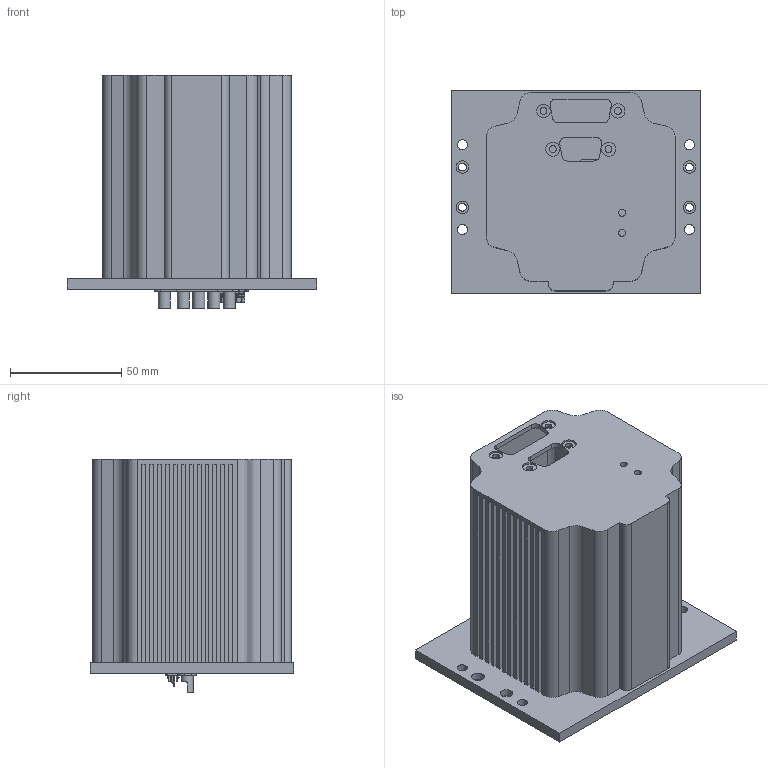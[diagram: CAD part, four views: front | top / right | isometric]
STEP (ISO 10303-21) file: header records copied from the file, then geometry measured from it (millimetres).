
FILE_DESCRIPTION(/* description */ ('Alibre Inc.'),/* implementation_level */ '2;1');
FILE_NAME(/* name */ 'export0',/* time_stamp */ '2008-02-01T16:21:29-08:00',/* author */ (''),/* organization */ (''),/* preprocessor_version */ 'ST-DEVELOPER v10',/* originating_system */ 'Alibre',/* authorisation */ '');
FILE_SCHEMA (('ALIBRE_SCHEMA','CONFIG_CONTROL_DESIGN'));
Length unit declared in the file: inch
Products named in the file (9): ID_1
Bounding box: 111.94 x 91.44 x 104.78 mm (x, y, z)
Volume: 124558.2 mm3; surface area: 108845.1 mm2
Topology: 8 solids, 10 shells, 1560 faces, 3912 edges, 2532 vertices
Faces by surface type: plane 798, cylinder 567, bspline 122, torus 70, cone 3
Full cylindrical faces by diameter (mm): 2.489 x1, 2.794 x3, 2.87 x1, 3.048 x12, 3.175 x4, 3.493 x4, 3.556 x9, 4.013 x5, 4.231 x4, 4.496 x4, 4.653 x1, 5.461 x12, 5.588 x4, 6.098 x1, 6.35 x3
Entity records: 137560 total; most frequent: CARTESIAN_POINT 60837, ORIENTED_EDGE 12994, DIRECTION 10563, EDGE_CURVE 6481, VERTEX_POINT 4211, VECTOR 4142, LINE 4006, PERSISTANTTOPOLOGYATTRIBUTE 3960
